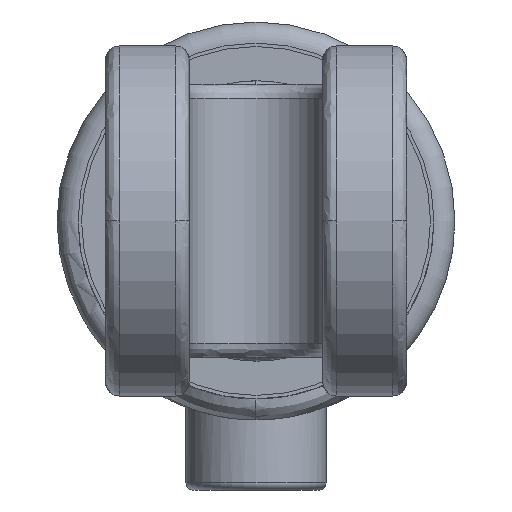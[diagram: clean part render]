
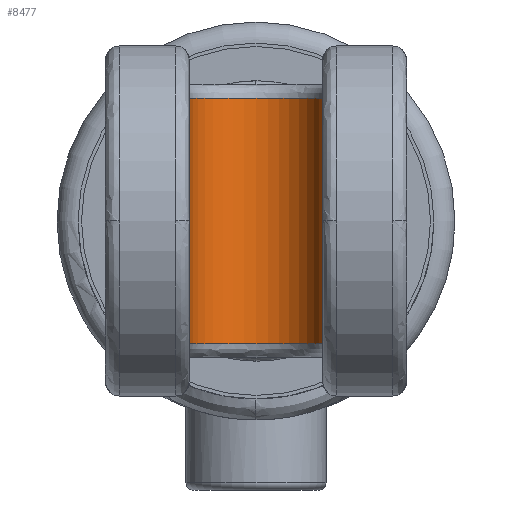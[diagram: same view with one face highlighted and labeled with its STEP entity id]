
A CAD part, left-side view. The second image highlights one B-rep face of the part: STEP entity #8477.
In plain terms, the highlighted cylindrical face has radius 9.5 mm (diameter 19 mm), a partial arc.
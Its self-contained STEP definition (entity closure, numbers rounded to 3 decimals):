
#26 = CARTESIAN_POINT ( 'NONE',  ( 0.293, -17.446, 17.5 ) ) ;
#280 = DIRECTION ( 'NONE',  ( 0., 0., 1. ) ) ;
#2025 = CIRCLE ( 'NONE', #7393, 9.5 ) ;
#3056 = EDGE_CURVE ( 'NONE', #12557, #4798, #5530, .T. ) ;
#3316 = VERTEX_POINT ( 'NONE', #12533 ) ;
#3716 = EDGE_CURVE ( 'NONE', #3316, #12557, #13572, .T. ) ;
#4798 = VERTEX_POINT ( 'NONE', #22340 ) ;
#5333 = CARTESIAN_POINT ( 'NONE',  ( 0.293, -7.946, 17.5 ) ) ;
#5368 = VECTOR ( 'NONE', #14293, 1000. ) ;
#5503 = CARTESIAN_POINT ( 'NONE',  ( 0.293, -7.946, -17.5 ) ) ;
#5530 = CIRCLE ( 'NONE', #11950, 9.5 ) ;
#5684 = DIRECTION ( 'NONE',  ( 1., 0., 0. ) ) ;
#7205 = DIRECTION ( 'NONE',  ( 1., 0., 0. ) ) ;
#7385 = DIRECTION ( 'NONE',  ( 1., 0., 0. ) ) ;
#7393 = AXIS2_PLACEMENT_3D ( 'NONE', #5503, #18389, #7385 ) ;
#8159 = VERTEX_POINT ( 'NONE', #13346 ) ;
#8477 = ADVANCED_FACE ( 'NONE', ( #20698 ), #18974, .F. ) ;
#8940 = CARTESIAN_POINT ( 'NONE',  ( 0.293, -7.946, -19.5 ) ) ;
#9166 = CARTESIAN_POINT ( 'NONE',  ( 0.293, -17.446, -19.5 ) ) ;
#9199 = EDGE_CURVE ( 'NONE', #8159, #3316, #2025, .T. ) ;
#9223 = ORIENTED_EDGE ( 'NONE', *, *, #9199, .F. ) ;
#9403 = ORIENTED_EDGE ( 'NONE', *, *, #16547, .F. ) ;
#11300 = VECTOR ( 'NONE', #20138, 1000. ) ;
#11950 = AXIS2_PLACEMENT_3D ( 'NONE', #5333, #18214, #7205 ) ;
#12533 = CARTESIAN_POINT ( 'NONE',  ( 0.293, -17.446, -17.5 ) ) ;
#12557 = VERTEX_POINT ( 'NONE', #26 ) ;
#12769 = AXIS2_PLACEMENT_3D ( 'NONE', #8940, #280, #5684 ) ;
#13346 = CARTESIAN_POINT ( 'NONE',  ( 0.293, 1.554, -17.5 ) ) ;
#13572 = LINE ( 'NONE', #9166, #11300 ) ;
#14293 = DIRECTION ( 'NONE',  ( 0., 0., -1. ) ) ;
#15072 = ORIENTED_EDGE ( 'NONE', *, *, #3056, .F. ) ;
#16142 = CARTESIAN_POINT ( 'NONE',  ( 0.293, 1.554, -19.5 ) ) ;
#16547 = EDGE_CURVE ( 'NONE', #4798, #8159, #20037, .T. ) ;
#16743 = ORIENTED_EDGE ( 'NONE', *, *, #3716, .F. ) ;
#18214 = DIRECTION ( 'NONE',  ( 0., 0., -1. ) ) ;
#18389 = DIRECTION ( 'NONE',  ( 0., 0., 1. ) ) ;
#18974 = CYLINDRICAL_SURFACE ( 'NONE', #12769, 9.5 ) ;
#20037 = LINE ( 'NONE', #16142, #5368 ) ;
#20138 = DIRECTION ( 'NONE',  ( 0., 0., 1. ) ) ;
#20698 = FACE_OUTER_BOUND ( 'NONE', #21813, .T. ) ;
#21813 = EDGE_LOOP ( 'NONE', ( #16743, #9223, #9403, #15072 ) ) ;
#22340 = CARTESIAN_POINT ( 'NONE',  ( 0.293, 1.554, 17.5 ) ) ;
